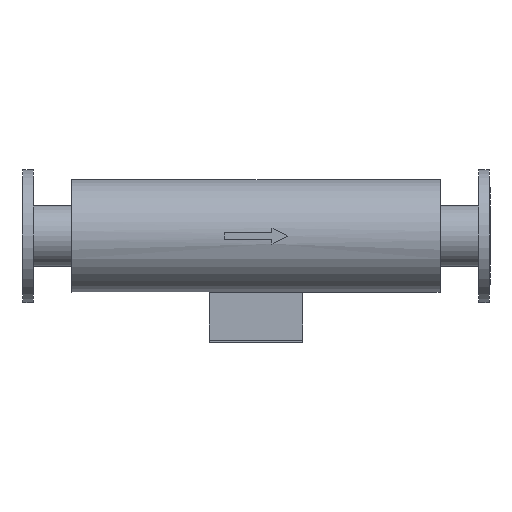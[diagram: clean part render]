
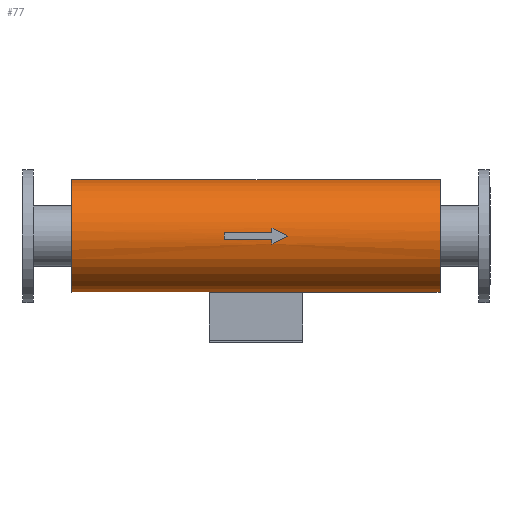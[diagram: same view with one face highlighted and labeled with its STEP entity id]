
A CAD part, front view. The second image highlights one B-rep face of the part: STEP entity #77.
In plain terms, the highlighted cylindrical face has radius 106.05 mm (diameter 212.1 mm), a partial arc.
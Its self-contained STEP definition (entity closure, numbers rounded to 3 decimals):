
#77=ADVANCED_FACE('',(#552,#553,#554),#551,.T.);
#551=CYLINDRICAL_SURFACE('',#1350,106.05);
#552=FACE_OUTER_BOUND('',#1351,.T.);
#553=FACE_BOUND('',#1352,.T.);
#554=FACE_BOUND('',#1353,.T.);
#1347=CARTESIAN_POINT('',(654.,0.,0.));
#1348=DIRECTION('',(1.,0.,0.));
#1349=DIRECTION('',(0.,0.009,1.));
#1350=AXIS2_PLACEMENT_3D('',#1347,#1348,#1349);
#1351=EDGE_LOOP('',(#1870,#1871,#1872,#1873,#1874,#1875));
#1352=EDGE_LOOP('',(#1876,#1877,#1878,#1879,#1880,#1881,#1882));
#1353=EDGE_LOOP('',(#1883,#1884,#1885,#1886));
#1870=ORIENTED_EDGE('',*,*,#2136,.T.);
#1871=ORIENTED_EDGE('',*,*,#2138,.T.);
#1872=ORIENTED_EDGE('',*,*,#2300,.F.);
#1873=ORIENTED_EDGE('',*,*,#2141,.F.);
#1874=ORIENTED_EDGE('',*,*,#2143,.F.);
#1875=ORIENTED_EDGE('',*,*,#2301,.T.);
#1876=ORIENTED_EDGE('',*,*,#2250,.F.);
#1877=ORIENTED_EDGE('',*,*,#2258,.F.);
#1878=ORIENTED_EDGE('',*,*,#2243,.F.);
#1879=ORIENTED_EDGE('',*,*,#2260,.F.);
#1880=ORIENTED_EDGE('',*,*,#2264,.F.);
#1881=ORIENTED_EDGE('',*,*,#2266,.F.);
#1882=ORIENTED_EDGE('',*,*,#2267,.F.);
#1883=ORIENTED_EDGE('',*,*,#2284,.T.);
#1884=ORIENTED_EDGE('',*,*,#2280,.T.);
#1885=ORIENTED_EDGE('',*,*,#2125,.T.);
#1886=ORIENTED_EDGE('',*,*,#2286,.T.);
#2125=EDGE_CURVE('',#2432,#2433,#2434,.T.);
#2136=EDGE_CURVE('',#2508,#2509,#2510,.T.);
#2138=EDGE_CURVE('',#2509,#2516,#2523,.T.);
#2141=EDGE_CURVE('',#2543,#2544,#2545,.T.);
#2143=EDGE_CURVE('',#2551,#2543,#2558,.T.);
#2243=EDGE_CURVE('',#3247,#3254,#3255,.T.);
#2250=EDGE_CURVE('',#3295,#3302,#3303,.T.);
#2258=EDGE_CURVE('',#3254,#3295,#3355,.T.);
#2260=EDGE_CURVE('',#3361,#3247,#3368,.T.);
#2264=EDGE_CURVE('',#3386,#3361,#3393,.T.);
#2266=EDGE_CURVE('',#3399,#3386,#3406,.T.);
#2267=EDGE_CURVE('',#3302,#3399,#3412,.T.);
#2280=EDGE_CURVE('',#3502,#2432,#3503,.T.);
#2284=EDGE_CURVE('',#3528,#3502,#3529,.T.);
#2286=EDGE_CURVE('',#2433,#3528,#3541,.T.);
#2300=EDGE_CURVE('',#2544,#2516,#3634,.T.);
#2301=EDGE_CURVE('',#2551,#2508,#3640,.T.);
#2432=VERTEX_POINT('',#4017);
#2433=VERTEX_POINT('',#4018);
#2434=LINE('',#4019,#4020);
#2508=VERTEX_POINT('',#4064);
#2509=VERTEX_POINT('',#4065);
#2510=CIRCLE('',#4069,106.05);
#2516=VERTEX_POINT('',#4070);
#2523=CIRCLE('',#4078,106.05);
#2543=VERTEX_POINT('',#4089);
#2544=VERTEX_POINT('',#4090);
#2545=CIRCLE('',#4094,106.05);
#2551=VERTEX_POINT('',#4095);
#2558=CIRCLE('',#4103,106.05);
#3247=VERTEX_POINT('',#4577);
#3254=VERTEX_POINT('',#4581);
#3255=(BOUNDED_CURVE() B_SPLINE_CURVE(2,(#4582,#4583,#4584),.UNSPECIFIED.,.F.,.F.) B_SPLINE_CURVE_WITH_KNOTS((3,3),(-1.571,-1.429),.UNSPECIFIED.) CURVE() GEOMETRIC_REPRESENTATION_ITEM() RATIONAL_B_SPLINE_CURVE((1.,0.997,1.)) REPRESENTATION_ITEM('') );
#3295=VERTEX_POINT('',#4605);
#3302=VERTEX_POINT('',#4609);
#3303=LINE('',#4610,#4611);
#3355=CIRCLE('',#4641,106.05);
#3361=VERTEX_POINT('',#4642);
#3368=(BOUNDED_CURVE() B_SPLINE_CURVE(2,(#4646,#4647,#4648),.UNSPECIFIED.,.F.,.F.) B_SPLINE_CURVE_WITH_KNOTS((3,3),(-4.854,-4.712),.UNSPECIFIED.) CURVE() GEOMETRIC_REPRESENTATION_ITEM() RATIONAL_B_SPLINE_CURVE((1.,0.997,1.)) REPRESENTATION_ITEM('') );
#3386=VERTEX_POINT('',#4655);
#3393=CIRCLE('',#4662,106.05);
#3399=VERTEX_POINT('',#4663);
#3406=LINE('',#4667,#4668);
#3412=CIRCLE('',#4673,106.05);
#3502=VERTEX_POINT('',#4734);
#3503=CIRCLE('',#4738,106.05);
#3528=VERTEX_POINT('',#4749);
#3529=LINE('',#4750,#4751);
#3541=CIRCLE('',#4759,106.05);
#3634=(BOUNDED_CURVE() B_SPLINE_CURVE(1,(#4814,#4815),.UNSPECIFIED.,.F.,.F.) B_SPLINE_CURVE_WITH_KNOTS((2,2),(0.014,0.986),.UNSPECIFIED.) CURVE() GEOMETRIC_REPRESENTATION_ITEM() RATIONAL_B_SPLINE_CURVE((1.,1.)) REPRESENTATION_ITEM('') );
#3640=(BOUNDED_CURVE() B_SPLINE_CURVE(1,(#4816,#4817),.UNSPECIFIED.,.F.,.F.) B_SPLINE_CURVE_WITH_KNOTS((2,2),(0.014,0.986),.UNSPECIFIED.) CURVE() GEOMETRIC_REPRESENTATION_ITEM() RATIONAL_B_SPLINE_CURVE((0.881,0.881)) REPRESENTATION_ITEM('') );
#4017=CARTESIAN_POINT('',(-87.5,-4.,-105.975));
#4018=CARTESIAN_POINT('',(87.5,-4.,-105.975));
#4019=CARTESIAN_POINT('',(-87.5,-4.,-105.975));
#4020=VECTOR('',#4021,175.);
#4021=DIRECTION('',(1.,0.,0.));
#4064=CARTESIAN_POINT('',(346.,74.895,-75.082));
#4065=CARTESIAN_POINT('',(346.,0.,-106.05));
#4066=CARTESIAN_POINT('',(346.,0.,0.));
#4067=DIRECTION('',(-1.,0.,0.));
#4068=DIRECTION('',(0.,0.,-1.));
#4069=AXIS2_PLACEMENT_3D('',#4066,#4067,#4068);
#4070=CARTESIAN_POINT('',(346.,0.925,106.046));
#4075=CARTESIAN_POINT('',(346.,0.,0.));
#4076=DIRECTION('',(-1.,0.,0.));
#4077=DIRECTION('',(0.,0.,-1.));
#4078=AXIS2_PLACEMENT_3D('',#4075,#4076,#4077);
#4089=CARTESIAN_POINT('',(-346.,0.,-106.05));
#4090=CARTESIAN_POINT('',(-346.,0.925,106.046));
#4091=CARTESIAN_POINT('',(-346.,0.,0.));
#4092=DIRECTION('',(-1.,0.,0.));
#4093=DIRECTION('',(0.,0.,-1.));
#4094=AXIS2_PLACEMENT_3D('',#4091,#4092,#4093);
#4095=CARTESIAN_POINT('',(-346.,74.895,-75.082));
#4100=CARTESIAN_POINT('',(-346.,0.,0.));
#4101=DIRECTION('',(-1.,0.,0.));
#4102=DIRECTION('',(0.,0.,-1.));
#4103=AXIS2_PLACEMENT_3D('',#4100,#4101,#4102);
#4577=CARTESIAN_POINT('',(60.,-106.05,0.));
#4581=CARTESIAN_POINT('',(30.,-104.984,15.));
#4582=CARTESIAN_POINT('',(60.,-106.05,0.));
#4583=CARTESIAN_POINT('',(44.924,-106.05,7.538));
#4584=CARTESIAN_POINT('',(30.,-104.984,15.));
#4605=CARTESIAN_POINT('',(30.,-105.88,6.));
#4609=CARTESIAN_POINT('',(-60.,-105.88,6.));
#4610=CARTESIAN_POINT('',(30.,-105.88,6.));
#4611=VECTOR('',#4612,90.);
#4612=DIRECTION('',(-1.,0.,0.));
#4638=CARTESIAN_POINT('',(30.,0.,0.));
#4639=DIRECTION('',(1.,0.,0.));
#4640=DIRECTION('',(0.,0.,-1.));
#4641=AXIS2_PLACEMENT_3D('',#4638,#4639,#4640);
#4642=CARTESIAN_POINT('',(30.,-104.984,-15.));
#4646=CARTESIAN_POINT('',(30.,-104.984,-15.));
#4647=CARTESIAN_POINT('',(44.924,-106.05,-7.538));
#4648=CARTESIAN_POINT('',(60.,-106.05,0.));
#4655=CARTESIAN_POINT('',(30.,-105.88,-6.));
#4659=CARTESIAN_POINT('',(30.,0.,0.));
#4660=DIRECTION('',(1.,0.,0.));
#4661=DIRECTION('',(0.,0.,-1.));
#4662=AXIS2_PLACEMENT_3D('',#4659,#4660,#4661);
#4663=CARTESIAN_POINT('',(-60.,-105.88,-6.));
#4667=CARTESIAN_POINT('',(-60.,-105.88,-6.));
#4668=VECTOR('',#4669,90.);
#4669=DIRECTION('',(1.,0.,0.));
#4670=CARTESIAN_POINT('',(-60.,0.,0.));
#4671=DIRECTION('',(1.,0.,0.));
#4672=DIRECTION('',(0.,0.,-1.));
#4673=AXIS2_PLACEMENT_3D('',#4670,#4671,#4672);
#4734=CARTESIAN_POINT('',(-87.5,4.,-105.975));
#4735=CARTESIAN_POINT('',(-87.5,0.,0.));
#4736=DIRECTION('',(-1.,0.,0.));
#4737=DIRECTION('',(0.,0.,1.));
#4738=AXIS2_PLACEMENT_3D('',#4735,#4736,#4737);
#4749=CARTESIAN_POINT('',(87.5,4.,-105.975));
#4750=CARTESIAN_POINT('',(87.5,4.,-105.975));
#4751=VECTOR('',#4752,175.);
#4752=DIRECTION('',(-1.,0.,0.));
#4756=CARTESIAN_POINT('',(87.5,0.,0.));
#4757=DIRECTION('',(1.,0.,0.));
#4758=DIRECTION('',(0.,0.038,-0.999));
#4759=AXIS2_PLACEMENT_3D('',#4756,#4757,#4758);
#4814=CARTESIAN_POINT('',(-346.,0.925,106.046));
#4815=CARTESIAN_POINT('',(346.,0.925,106.046));
#4816=CARTESIAN_POINT('',(-346.,74.895,-75.082));
#4817=CARTESIAN_POINT('',(346.,74.895,-75.082));
